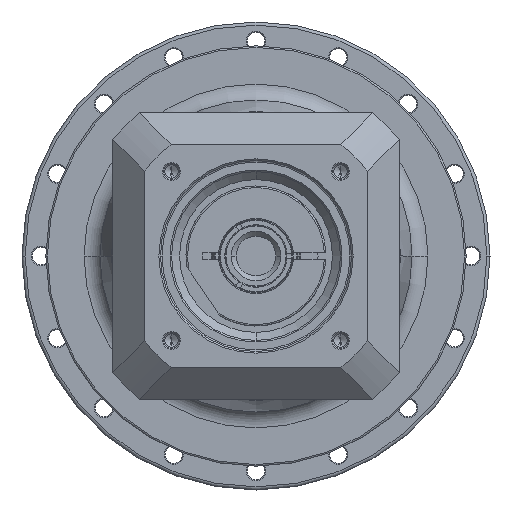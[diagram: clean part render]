
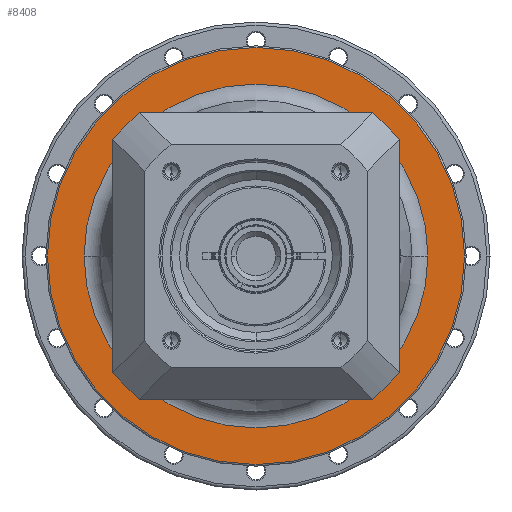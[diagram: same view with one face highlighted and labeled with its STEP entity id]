
A CAD part, left-side view. The second image highlights one B-rep face of the part: STEP entity #8408.
In plain terms, the highlighted planar face has unit normal (-1, 0, 0) as drawn and (1, 0, 0) by its records, which use the part's own axes.
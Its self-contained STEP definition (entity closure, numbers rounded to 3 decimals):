
#7839=CARTESIAN_POINT('',(-18.5,0.,0.));
#7840=DIRECTION('',(-1.,0.,0.));
#7841=DIRECTION('',(0.,-1.,0.));
#7842=AXIS2_PLACEMENT_3D('',#7839,#7840,#7841);
#7844=CARTESIAN_POINT('',(-18.5,0.,0.));
#7845=DIRECTION('',(-1.,0.,0.));
#7846=DIRECTION('',(0.,1.,0.));
#7847=AXIS2_PLACEMENT_3D('',#7844,#7845,#7846);
#7849=CARTESIAN_POINT('',(-18.5,0.,0.));
#7850=DIRECTION('',(1.,0.,0.));
#7851=DIRECTION('',(0.,1.,0.));
#7852=AXIS2_PLACEMENT_3D('',#7849,#7850,#7851);
#7859=CARTESIAN_POINT('',(-18.5,0.,0.));
#7860=DIRECTION('',(-1.,0.,0.));
#7861=DIRECTION('',(0.,1.,0.));
#7862=AXIS2_PLACEMENT_3D('',#7859,#7860,#7861);
#7963=CARTESIAN_POINT('',(-18.5,-65.5,0.));
#7964=CARTESIAN_POINT('',(-18.5,65.5,0.));
#7965=VERTEX_POINT('',#7963);
#7966=VERTEX_POINT('',#7964);
#7991=CARTESIAN_POINT('',(-18.5,54.,0.));
#7993=VERTEX_POINT('',#7991);
#7995=CARTESIAN_POINT('',(-18.5,-54.,0.));
#7997=VERTEX_POINT('',#7995);
#8393=CARTESIAN_POINT('',(-18.5,0.,0.));
#8394=DIRECTION('',(1.,0.,0.));
#8395=DIRECTION('',(0.,-1.,0.));
#8396=AXIS2_PLACEMENT_3D('',#8393,#8394,#8395);
#8397=PLANE('',#8396);
#8398=ORIENTED_EDGE('',*,*,#8334,.T.);
#8399=ORIENTED_EDGE('',*,*,#8349,.T.);
#8400=EDGE_LOOP('',(#8398,#8399));
#8401=FACE_OUTER_BOUND('',#8400,.F.);
#8403=ORIENTED_EDGE('',*,*,#8402,.T.);
#8405=ORIENTED_EDGE('',*,*,#8404,.F.);
#8406=EDGE_LOOP('',(#8403,#8405));
#8407=FACE_BOUND('',#8406,.F.);
#8408=ADVANCED_FACE('',(#8401,#8407),#8397,.T.);
#7843=CIRCLE('',#7842,65.5);
#7848=CIRCLE('',#7847,65.5);
#7853=CIRCLE('',#7852,54.);
#7863=CIRCLE('',#7862,54.);
#8334=EDGE_CURVE('',#7965,#7966,#7843,.T.);
#8349=EDGE_CURVE('',#7966,#7965,#7848,.T.);
#8402=EDGE_CURVE('',#7993,#7997,#7853,.T.);
#8404=EDGE_CURVE('',#7993,#7997,#7863,.T.);
